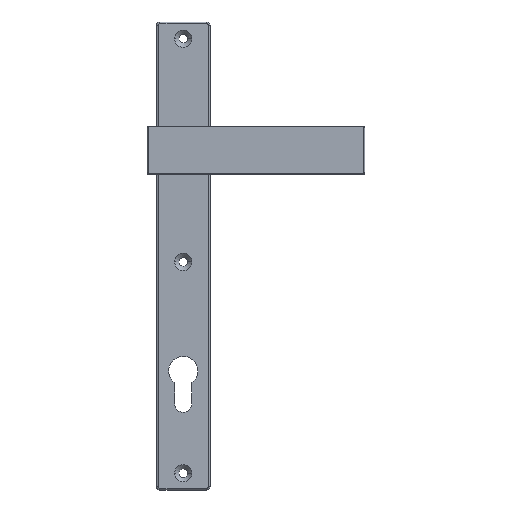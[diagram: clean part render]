
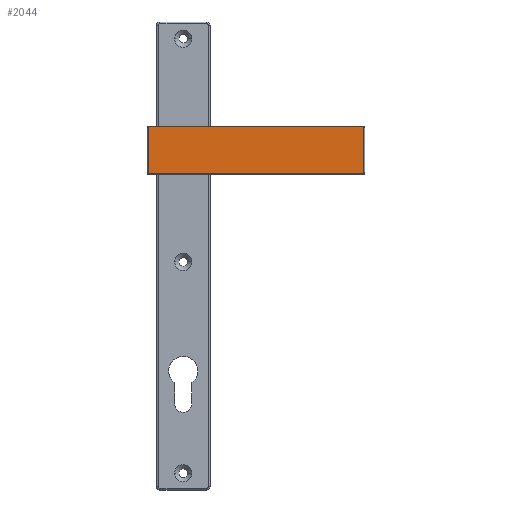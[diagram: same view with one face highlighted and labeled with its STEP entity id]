
A CAD part, top view. The second image highlights one B-rep face of the part: STEP entity #2044.
In plain terms, the highlighted planar face has unit normal (0, 0, 1) as drawn and (-1, 0, 0) by its records, which use the part's own axes.
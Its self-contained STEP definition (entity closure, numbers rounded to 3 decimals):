
#72 = PLANE ( 'NONE',  #8873 ) ;
#226 = DIRECTION ( 'NONE',  ( -1., 0., 0. ) ) ;
#251 = CARTESIAN_POINT ( 'NONE',  ( -5., -107.5, -14. ) ) ;
#277 = DIRECTION ( 'NONE',  ( 0., -1., 0. ) ) ;
#278 = CARTESIAN_POINT ( 'NONE',  ( -5., -107.5, -14. ) ) ;
#283 = CARTESIAN_POINT ( 'NONE',  ( -5., 20.5, 13.5 ) ) ;
#331 = DIRECTION ( 'NONE',  ( 0., -1., 0. ) ) ;
#351 = LINE ( 'NONE', #251, #8562 ) ;
#385 = EDGE_CURVE ( 'NONE', #857, #6180, #7508, .T. ) ;
#393 = ORIENTED_EDGE ( 'NONE', *, *, #385, .T. ) ;
#417 = VERTEX_POINT ( 'NONE', #8237 ) ;
#465 = VERTEX_POINT ( 'NONE', #2365 ) ;
#589 = DIRECTION ( 'NONE',  ( 0., -1., 0. ) ) ;
#699 = CARTESIAN_POINT ( 'NONE',  ( -5., 20.5, 14. ) ) ;
#723 = EDGE_CURVE ( 'NONE', #465, #857, #5720, .T. ) ;
#857 = VERTEX_POINT ( 'NONE', #9758 ) ;
#921 = AXIS2_PLACEMENT_3D ( 'NONE', #283, #6684, #331 ) ;
#1059 = EDGE_LOOP ( 'NONE', ( #5963, #2168, #5477, #6530, #7088, #393, #2425, #7803 ) ) ;
#1519 = DIRECTION ( 'NONE',  ( 0., -1., 0. ) ) ;
#1650 = DIRECTION ( 'NONE',  ( 0., -1., 0. ) ) ;
#1844 = CARTESIAN_POINT ( 'NONE',  ( -5., 20.5, 14. ) ) ;
#2032 = CARTESIAN_POINT ( 'NONE',  ( -5., -108., 13.5 ) ) ;
#2044 = ADVANCED_FACE ( 'NONE', ( #8933 ), #72, .T. ) ;
#2168 = ORIENTED_EDGE ( 'NONE', *, *, #10295, .T. ) ;
#2365 = CARTESIAN_POINT ( 'NONE',  ( -5., 21., 13.5 ) ) ;
#2425 = ORIENTED_EDGE ( 'NONE', *, *, #6062, .T. ) ;
#3117 = VERTEX_POINT ( 'NONE', #278 ) ;
#3198 = DIRECTION ( 'NONE',  ( -1., 0., 0. ) ) ;
#3546 = LINE ( 'NONE', #2032, #4517 ) ;
#3820 = CARTESIAN_POINT ( 'NONE',  ( -5., -107.5, -13.5 ) ) ;
#3934 = CIRCLE ( 'NONE', #9300, 0.5 ) ;
#3980 = AXIS2_PLACEMENT_3D ( 'NONE', #8007, #226, #1650 ) ;
#4055 = CARTESIAN_POINT ( 'NONE',  ( -5., 20.5, -14. ) ) ;
#4061 = EDGE_CURVE ( 'NONE', #417, #8757, #5521, .T. ) ;
#4162 = DIRECTION ( 'NONE',  ( 0., -1., 0. ) ) ;
#4428 = DIRECTION ( 'NONE',  ( 0., 0., 1. ) ) ;
#4517 = VECTOR ( 'NONE', #4428, 1000. ) ;
#4638 = VERTEX_POINT ( 'NONE', #4812 ) ;
#4704 = DIRECTION ( 'NONE',  ( 0., 0., -1. ) ) ;
#4812 = CARTESIAN_POINT ( 'NONE',  ( -5., -108., -13.5 ) ) ;
#5039 = DIRECTION ( 'NONE',  ( -1., 0., 0. ) ) ;
#5477 = ORIENTED_EDGE ( 'NONE', *, *, #4061, .T. ) ;
#5521 = LINE ( 'NONE', #699, #8217 ) ;
#5603 = CIRCLE ( 'NONE', #6279, 0.5 ) ;
#5670 = EDGE_CURVE ( 'NONE', #4638, #8341, #3546, .T. ) ;
#5720 = LINE ( 'NONE', #7196, #7018 ) ;
#5963 = ORIENTED_EDGE ( 'NONE', *, *, #5670, .T. ) ;
#6062 = EDGE_CURVE ( 'NONE', #6180, #3117, #351, .T. ) ;
#6180 = VERTEX_POINT ( 'NONE', #4055 ) ;
#6279 = AXIS2_PLACEMENT_3D ( 'NONE', #3820, #10290, #1519 ) ;
#6372 = DIRECTION ( 'NONE',  ( 0., 1., 0. ) ) ;
#6530 = ORIENTED_EDGE ( 'NONE', *, *, #9010, .T. ) ;
#6684 = DIRECTION ( 'NONE',  ( -1., 0., 0. ) ) ;
#7018 = VECTOR ( 'NONE', #4704, 1000. ) ;
#7088 = ORIENTED_EDGE ( 'NONE', *, *, #723, .T. ) ;
#7196 = CARTESIAN_POINT ( 'NONE',  ( -5., 21., -13.5 ) ) ;
#7364 = CARTESIAN_POINT ( 'NONE',  ( -5., 0., 0. ) ) ;
#7508 = CIRCLE ( 'NONE', #3980, 0.5 ) ;
#7639 = CARTESIAN_POINT ( 'NONE',  ( -5., -108., 13.5 ) ) ;
#7803 = ORIENTED_EDGE ( 'NONE', *, *, #9121, .T. ) ;
#7956 = CIRCLE ( 'NONE', #921, 0.5 ) ;
#7990 = CARTESIAN_POINT ( 'NONE',  ( -5., -107.5, 13.5 ) ) ;
#8007 = CARTESIAN_POINT ( 'NONE',  ( -5., 20.5, -13.5 ) ) ;
#8217 = VECTOR ( 'NONE', #6372, 1000. ) ;
#8237 = CARTESIAN_POINT ( 'NONE',  ( -5., -107.5, 14. ) ) ;
#8341 = VERTEX_POINT ( 'NONE', #7639 ) ;
#8562 = VECTOR ( 'NONE', #4162, 1000. ) ;
#8757 = VERTEX_POINT ( 'NONE', #1844 ) ;
#8873 = AXIS2_PLACEMENT_3D ( 'NONE', #7364, #5039, #277 ) ;
#8933 = FACE_OUTER_BOUND ( 'NONE', #1059, .T. ) ;
#9010 = EDGE_CURVE ( 'NONE', #8757, #465, #7956, .T. ) ;
#9121 = EDGE_CURVE ( 'NONE', #3117, #4638, #5603, .T. ) ;
#9300 = AXIS2_PLACEMENT_3D ( 'NONE', #7990, #3198, #589 ) ;
#9758 = CARTESIAN_POINT ( 'NONE',  ( -5., 21., -13.5 ) ) ;
#10290 = DIRECTION ( 'NONE',  ( -1., 0., 0. ) ) ;
#10295 = EDGE_CURVE ( 'NONE', #8341, #417, #3934, .T. ) ;
